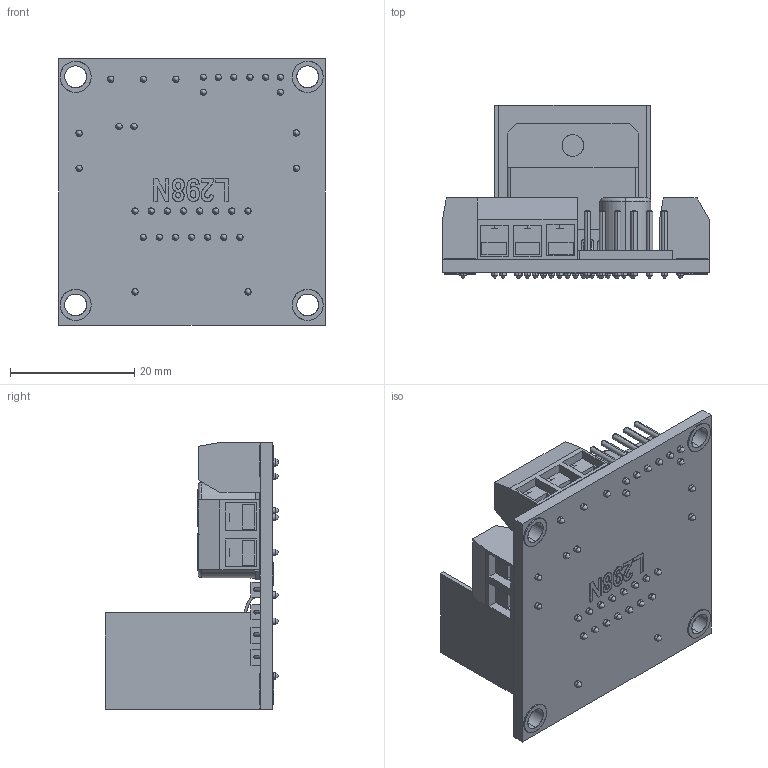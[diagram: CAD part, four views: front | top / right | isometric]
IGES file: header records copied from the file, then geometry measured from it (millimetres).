
Start section: SolidWorks IGES file using analytic representation for surfaces
Global section: file name: C:\Users\fablab-info\Desktop\Miroir cylindro-parabolique\IGS 3D\L298N Stepper Motor Driver (Red).IGS; native system: SolidWorks 2017; preprocessor: SolidWorks 2017; author: fablab-info; date: 190712.155216; units: centimetre
Bounding box: 43 x 28 x 43 mm (x, y, z)
Surface area: 12321.5 mm2 (no closed solid volume)
Topology: 0 solids, 0 shells, 1420 faces, 15538 edges, 15538 vertices
Faces by surface type: bspline 1278, revolution 142
